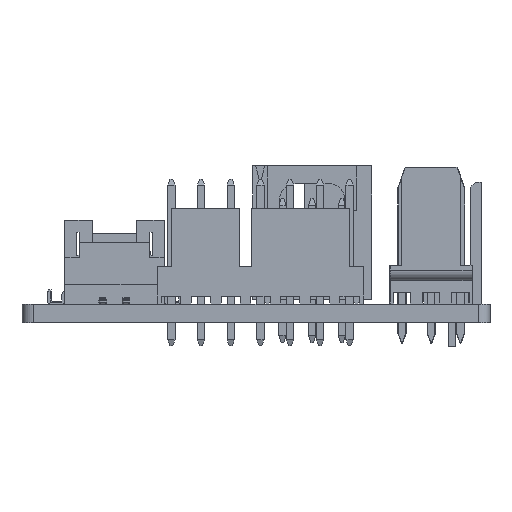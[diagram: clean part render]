
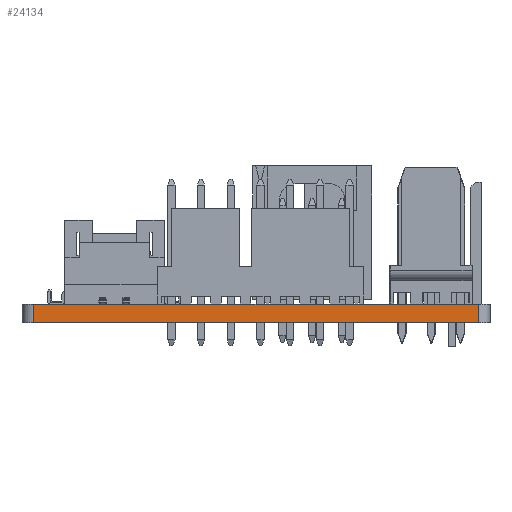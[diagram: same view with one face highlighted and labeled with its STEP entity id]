
A CAD part, left-side view. The second image highlights one B-rep face of the part: STEP entity #24134.
In plain terms, the highlighted planar face has unit normal (-1, 0, 0).
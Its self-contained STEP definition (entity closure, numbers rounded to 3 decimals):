
#2597 = EDGE_CURVE ( 'NONE', #4850, #20276, #24988, .T. ) ;
#2636 = DIRECTION ( 'NONE',  ( 0., 0., 1. ) ) ;
#4850 = VERTEX_POINT ( 'NONE', #9858 ) ;
#4914 = CARTESIAN_POINT ( 'NONE',  ( -30., -19., 0. ) ) ;
#5463 = DIRECTION ( 'NONE',  ( 0., 0., 1. ) ) ;
#7403 = VECTOR ( 'NONE', #5463, 1000. ) ;
#7627 = PLANE ( 'NONE',  #31522 ) ;
#7877 = CARTESIAN_POINT ( 'NONE',  ( -30., -19., 0. ) ) ;
#7938 = DIRECTION ( 'NONE',  ( -1., 0., 0. ) ) ;
#8082 = CARTESIAN_POINT ( 'NONE',  ( -30., -19., 1.619 ) ) ;
#8351 = CARTESIAN_POINT ( 'NONE',  ( -30., 19., 0. ) ) ;
#9858 = CARTESIAN_POINT ( 'NONE',  ( -30., -19., 0. ) ) ;
#9933 = CARTESIAN_POINT ( 'NONE',  ( -30., -19., 1.619 ) ) ;
#10299 = LINE ( 'NONE', #8351, #12916 ) ;
#11663 = ORIENTED_EDGE ( 'NONE', *, *, #18884, .F. ) ;
#11782 = CARTESIAN_POINT ( 'NONE',  ( -30., 19., 0. ) ) ;
#12432 = VERTEX_POINT ( 'NONE', #11782 ) ;
#12763 = EDGE_CURVE ( 'NONE', #12432, #21067, #10299, .T. ) ;
#12916 = VECTOR ( 'NONE', #30630, 1000. ) ;
#13360 = VECTOR ( 'NONE', #20079, 1000. ) ;
#13455 = CARTESIAN_POINT ( 'NONE',  ( -30., 19., 1.619 ) ) ;
#15544 = DIRECTION ( 'NONE',  ( 0., 1., 0. ) ) ;
#16286 = ORIENTED_EDGE ( 'NONE', *, *, #19757, .T. ) ;
#17059 = EDGE_LOOP ( 'NONE', ( #29042, #16286, #17403, #11663 ) ) ;
#17403 = ORIENTED_EDGE ( 'NONE', *, *, #12763, .F. ) ;
#18884 = EDGE_CURVE ( 'NONE', #4850, #12432, #20706, .T. ) ;
#19757 = EDGE_CURVE ( 'NONE', #20276, #21067, #21870, .T. ) ;
#20057 = FACE_OUTER_BOUND ( 'NONE', #17059, .T. ) ;
#20079 = DIRECTION ( 'NONE',  ( 0., 1., 0. ) ) ;
#20276 = VERTEX_POINT ( 'NONE', #8082 ) ;
#20379 = CARTESIAN_POINT ( 'NONE',  ( -30., -19., 0. ) ) ;
#20706 = LINE ( 'NONE', #20379, #25303 ) ;
#21067 = VERTEX_POINT ( 'NONE', #13455 ) ;
#21870 = LINE ( 'NONE', #9933, #13360 ) ;
#24134 = ADVANCED_FACE ( 'NONE', ( #20057 ), #7627, .T. ) ;
#24988 = LINE ( 'NONE', #7877, #7403 ) ;
#25303 = VECTOR ( 'NONE', #15544, 1000. ) ;
#29042 = ORIENTED_EDGE ( 'NONE', *, *, #2597, .T. ) ;
#30630 = DIRECTION ( 'NONE',  ( 0., 0., 1. ) ) ;
#31522 = AXIS2_PLACEMENT_3D ( 'NONE', #4914, #7938, #2636 ) ;
